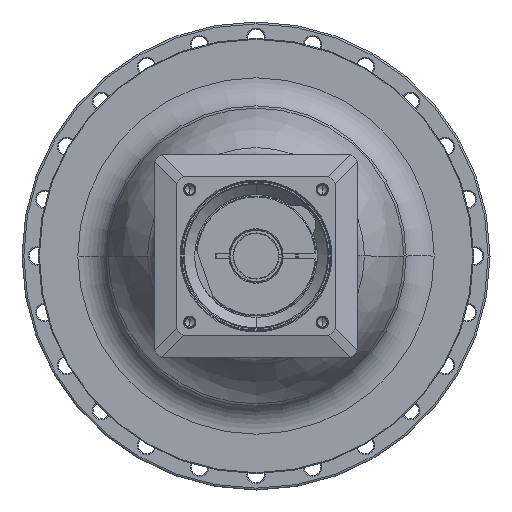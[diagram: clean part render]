
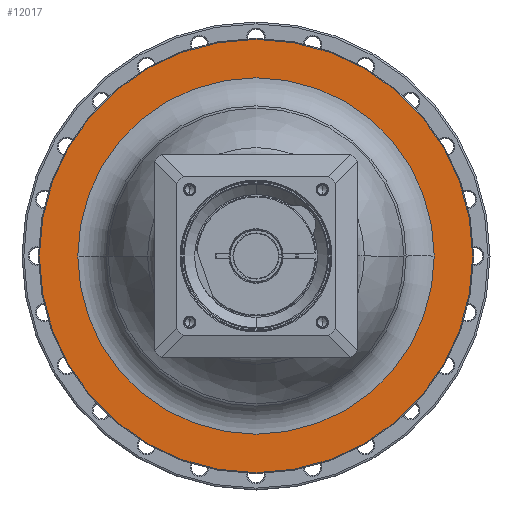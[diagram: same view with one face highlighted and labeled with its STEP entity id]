
A CAD part, left-side view. The second image highlights one B-rep face of the part: STEP entity #12017.
In plain terms, the highlighted planar face has unit normal (-1, 0, 0) as drawn and (1, 0, 0) by its records, which use the part's own axes.
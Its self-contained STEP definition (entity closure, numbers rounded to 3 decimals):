
#11520=CARTESIAN_POINT('',(-65.,0.,0.));
#11521=DIRECTION('',(-1.,0.,0.));
#11522=DIRECTION('',(0.,1.,0.));
#11523=AXIS2_PLACEMENT_3D('',#11520,#11521,#11522);
#11535=CARTESIAN_POINT('',(-65.,0.,0.));
#11536=DIRECTION('',(1.,0.,0.));
#11537=DIRECTION('',(0.,1.,0.));
#11538=AXIS2_PLACEMENT_3D('',#11535,#11536,#11537);
#11540=CARTESIAN_POINT('',(-65.,0.,0.));
#11541=DIRECTION('',(-1.,0.,0.));
#11542=DIRECTION('',(0.,-1.,0.));
#11543=AXIS2_PLACEMENT_3D('',#11540,#11541,#11542);
#11545=CARTESIAN_POINT('',(-65.,0.,0.));
#11546=DIRECTION('',(-1.,0.,0.));
#11547=DIRECTION('',(0.,1.,0.));
#11548=AXIS2_PLACEMENT_3D('',#11545,#11546,#11547);
#11670=CARTESIAN_POINT('',(-65.,-115.5,0.));
#11671=CARTESIAN_POINT('',(-65.,115.5,0.));
#11672=VERTEX_POINT('',#11670);
#11673=VERTEX_POINT('',#11671);
#11694=CARTESIAN_POINT('',(-65.,95.,0.));
#11695=CARTESIAN_POINT('',(-65.,-95.,0.));
#11696=VERTEX_POINT('',#11694);
#11697=VERTEX_POINT('',#11695);
#12002=CARTESIAN_POINT('',(-65.,0.,0.));
#12003=DIRECTION('',(1.,0.,0.));
#12004=DIRECTION('',(0.,-1.,0.));
#12005=AXIS2_PLACEMENT_3D('',#12002,#12003,#12004);
#12006=PLANE('',#12005);
#12008=ORIENTED_EDGE('',*,*,#12007,.T.);
#12010=ORIENTED_EDGE('',*,*,#12009,.T.);
#12011=EDGE_LOOP('',(#12008,#12010));
#12012=FACE_OUTER_BOUND('',#12011,.F.);
#12013=ORIENTED_EDGE('',*,*,#11996,.T.);
#12014=ORIENTED_EDGE('',*,*,#11982,.F.);
#12015=EDGE_LOOP('',(#12013,#12014));
#12016=FACE_BOUND('',#12015,.F.);
#12017=ADVANCED_FACE('',(#12012,#12016),#12006,.T.);
#11524=CIRCLE('',#11523,95.);
#11539=CIRCLE('',#11538,95.);
#11544=CIRCLE('',#11543,115.5);
#11549=CIRCLE('',#11548,115.5);
#11982=EDGE_CURVE('',#11696,#11697,#11524,.T.);
#11996=EDGE_CURVE('',#11696,#11697,#11539,.T.);
#12007=EDGE_CURVE('',#11672,#11673,#11544,.T.);
#12009=EDGE_CURVE('',#11673,#11672,#11549,.T.);
